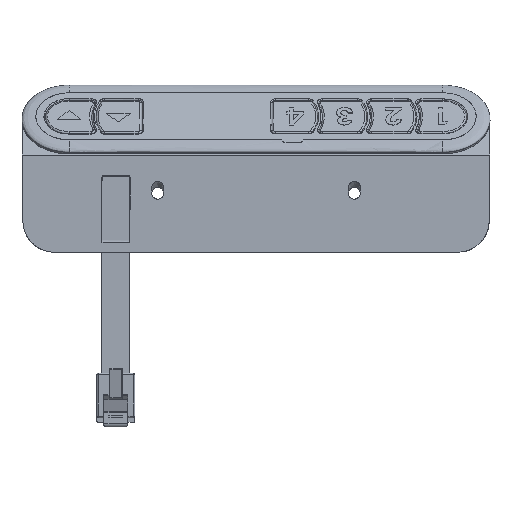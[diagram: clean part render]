
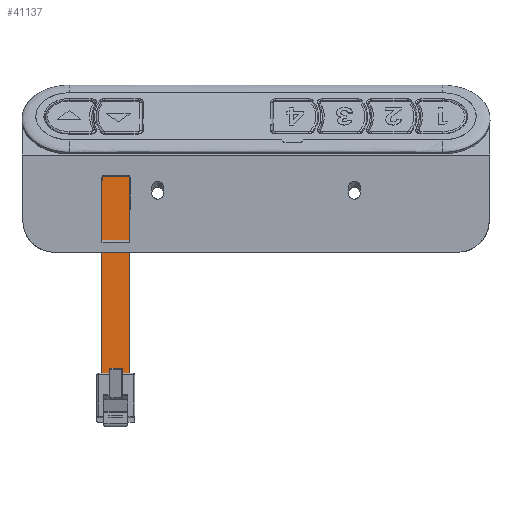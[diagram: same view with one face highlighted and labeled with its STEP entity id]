
A CAD part, top view. The second image highlights one B-rep face of the part: STEP entity #41137.
In plain terms, the highlighted planar face has unit normal (0, 0, 1) as drawn and (0, 1, 0) by its records, which use the part's own axes.
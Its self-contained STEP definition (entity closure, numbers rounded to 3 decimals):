
#9524 = LINE ( 'NONE', #67670, #17464 ) ;
#10200 = VERTEX_POINT ( 'NONE', #57556 ) ;
#10721 = CARTESIAN_POINT ( 'NONE',  ( -3.6, 1.7, -7.47 ) ) ;
#10970 = CARTESIAN_POINT ( 'NONE',  ( -3.6, 1.7, -7.47 ) ) ;
#14872 = CARTESIAN_POINT ( 'NONE',  ( 3.6, 1.7, -62.47 ) ) ;
#15629 = LINE ( 'NONE', #14872, #53026 ) ;
#15812 = DIRECTION ( 'NONE',  ( 0., 1., 0. ) ) ;
#17464 = VECTOR ( 'NONE', #26310, 1000. ) ;
#19071 = VECTOR ( 'NONE', #34770, 1000. ) ;
#23558 = CARTESIAN_POINT ( 'NONE',  ( 3.6, 1.7, -7.47 ) ) ;
#24765 = ORIENTED_EDGE ( 'NONE', *, *, #61040, .F. ) ;
#26310 = DIRECTION ( 'NONE',  ( 0., 0., -1. ) ) ;
#27595 = PLANE ( 'NONE',  #51149 ) ;
#33530 = VERTEX_POINT ( 'NONE', #38224 ) ;
#34523 = DIRECTION ( 'NONE',  ( 1., 0., 0. ) ) ;
#34770 = DIRECTION ( 'NONE',  ( 0., 0., -1. ) ) ;
#38224 = CARTESIAN_POINT ( 'NONE',  ( 3.6, 1.7, -62.47 ) ) ;
#38598 = VERTEX_POINT ( 'NONE', #10721 ) ;
#41137 = ADVANCED_FACE ( 'NONE', ( #76726 ), #27595, .T. ) ;
#45861 = LINE ( 'NONE', #23558, #56650 ) ;
#48586 = EDGE_CURVE ( 'NONE', #10200, #33530, #9524, .T. ) ;
#49851 = EDGE_LOOP ( 'NONE', ( #60047, #24765, #71603, #56834 ) ) ;
#51149 = AXIS2_PLACEMENT_3D ( 'NONE', #69305, #15812, #63085 ) ;
#51864 = EDGE_CURVE ( 'NONE', #38598, #67184, #64423, .T. ) ;
#53026 = VECTOR ( 'NONE', #62509, 1000. ) ;
#56650 = VECTOR ( 'NONE', #34523, 1000. ) ;
#56834 = ORIENTED_EDGE ( 'NONE', *, *, #65020, .T. ) ;
#57556 = CARTESIAN_POINT ( 'NONE',  ( 3.6, 1.7, -7.47 ) ) ;
#60047 = ORIENTED_EDGE ( 'NONE', *, *, #48586, .T. ) ;
#61040 = EDGE_CURVE ( 'NONE', #67184, #33530, #15629, .T. ) ;
#62509 = DIRECTION ( 'NONE',  ( 1., 0., 0. ) ) ;
#63085 = DIRECTION ( 'NONE',  ( 0., 0., 1. ) ) ;
#64423 = LINE ( 'NONE', #10970, #19071 ) ;
#65020 = EDGE_CURVE ( 'NONE', #38598, #10200, #45861, .T. ) ;
#67184 = VERTEX_POINT ( 'NONE', #70880 ) ;
#67670 = CARTESIAN_POINT ( 'NONE',  ( 3.6, 1.7, -7.47 ) ) ;
#69305 = CARTESIAN_POINT ( 'NONE',  ( 3.6, 1.7, -7.47 ) ) ;
#70880 = CARTESIAN_POINT ( 'NONE',  ( -3.6, 1.7, -62.47 ) ) ;
#71603 = ORIENTED_EDGE ( 'NONE', *, *, #51864, .F. ) ;
#76726 = FACE_OUTER_BOUND ( 'NONE', #49851, .T. ) ;
